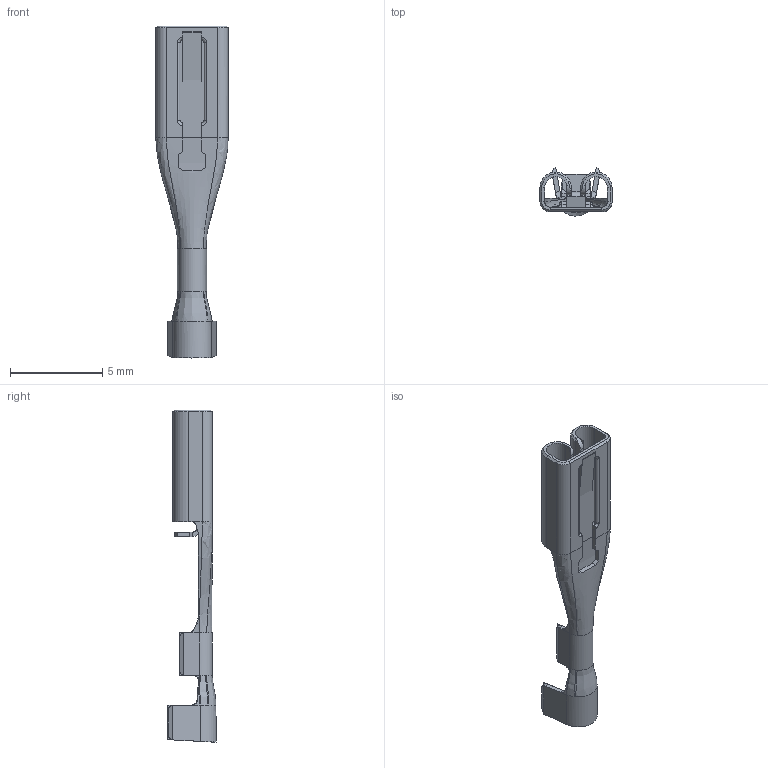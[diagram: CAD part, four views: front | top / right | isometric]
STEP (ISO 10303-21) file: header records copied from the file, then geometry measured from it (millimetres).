
FILE_DESCRIPTION((''),'2;1');
FILE_NAME('TP11031','2024-05-24T09:41:40',('JSB-3566'),(''),'CREO PARAMETRIC BY PTC INC, 2018050','CREO PARAMETRIC BY PTC INC, 2018050','');
FILE_SCHEMA(('CONFIG_CONTROL_DESIGN','SHAPE_APPEARANCE_LAYERS_GROUPS'));
Length unit declared in the file: millimetre
Products named in the file (1): TP11031
Bounding box: 3.9 x 2.6 x 17.95 mm (x, y, z)
Volume: 28.4 mm3; surface area: 349 mm2
Topology: 1 solids, 2 shells, 271 faces, 689 edges, 419 vertices
Faces by surface type: plane 121, bspline 66, cylinder 64, torus 8, sphere 8, cone 4
Entity records: 13519 total; most frequent: CARTESIAN_POINT 5343, ORIENTED_EDGE 1323, DIRECTION 1094, PRESENTATION_STYLE_ASSIGNMENT 691, STYLED_ITEM 691, CURVE_STYLE 689, EDGE_CURVE 689, VERTEX_POINT 419
